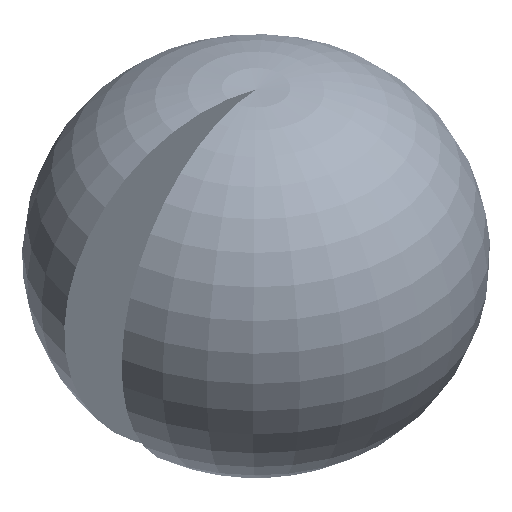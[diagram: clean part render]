
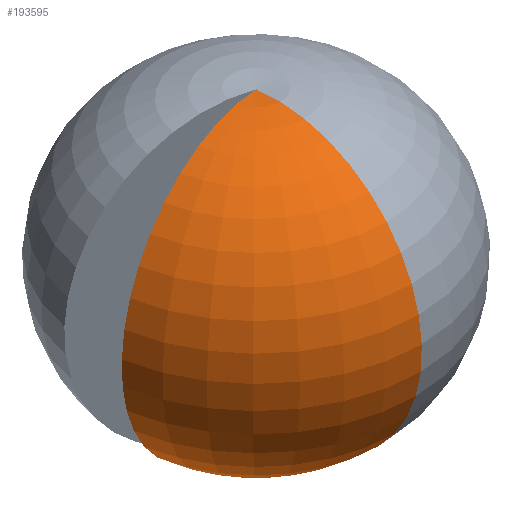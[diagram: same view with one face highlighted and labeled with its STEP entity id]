
A CAD part, isometric view. The second image highlights one B-rep face of the part: STEP entity #193595.
In plain terms, the highlighted toroidal (fillet/blend) face has major radius 279.64 mm and minor radius 2020.25 mm.
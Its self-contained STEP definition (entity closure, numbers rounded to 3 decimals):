
#8469 = AXIS2_PLACEMENT_3D ( 'NONE', #185276, #258822, #104993 ) ;
#17187 = EDGE_CURVE ( 'NONE', #87739, #170098, #20345, .T. ) ;
#20345 = CIRCLE ( 'NONE', #244084, 2020.245 ) ;
#34828 = VERTEX_POINT ( 'NONE', #53873 ) ;
#36661 = AXIS2_PLACEMENT_3D ( 'NONE', #198520, #302721, #68587 ) ;
#53873 = CARTESIAN_POINT ( 'NONE',  ( 0., -1438.405, -984.888 ) ) ;
#68587 = DIRECTION ( 'NONE',  ( 0., -1., 0. ) ) ;
#87739 = VERTEX_POINT ( 'NONE', #196451 ) ;
#90210 = ORIENTED_EDGE ( 'NONE', *, *, #152766, .T. ) ;
#101471 = EDGE_CURVE ( 'NONE', #34828, #170098, #333576, .T. ) ;
#104993 = DIRECTION ( 'NONE',  ( 0., -1., 0. ) ) ;
#106524 = TOROIDAL_SURFACE ( 'NONE', #8469, 279.64, 2020.245 ) ;
#129572 = CIRCLE ( 'NONE', #36661, 1438.405 ) ;
#132744 = ORIENTED_EDGE ( 'NONE', *, *, #17187, .F. ) ;
#141691 = CARTESIAN_POINT ( 'NONE',  ( 0., 0., 2670.798 ) ) ;
#152766 = EDGE_CURVE ( 'NONE', #87739, #34828, #129572, .T. ) ;
#170098 = VERTEX_POINT ( 'NONE', #141691 ) ;
#182363 = DIRECTION ( 'NONE',  ( 0., 0., 1. ) ) ;
#185276 = CARTESIAN_POINT ( 'NONE',  ( 0., 0., 670. ) ) ;
#191605 = AXIS2_PLACEMENT_3D ( 'NONE', #233666, #337877, #182363 ) ;
#193595 = ADVANCED_FACE ( 'NONE', ( #310077 ), #106524, .T. ) ;
#196451 = CARTESIAN_POINT ( 'NONE',  ( -1416.552, -249.776, -984.888 ) ) ;
#198520 = CARTESIAN_POINT ( 'NONE',  ( 0., 0., -984.888 ) ) ;
#212533 = CARTESIAN_POINT ( 'NONE',  ( -275.391, -48.559, 670. ) ) ;
#233341 = EDGE_LOOP ( 'NONE', ( #90210, #284893, #132744 ) ) ;
#233666 = CARTESIAN_POINT ( 'NONE',  ( 0., -279.64, 670. ) ) ;
#236526 = DIRECTION ( 'NONE',  ( -0.985, -0.174, 0. ) ) ;
#244084 = AXIS2_PLACEMENT_3D ( 'NONE', #212533, #316747, #236526 ) ;
#258822 = DIRECTION ( 'NONE',  ( 0., 0., 1. ) ) ;
#284893 = ORIENTED_EDGE ( 'NONE', *, *, #101471, .T. ) ;
#302721 = DIRECTION ( 'NONE',  ( 0., 0., 1. ) ) ;
#310077 = FACE_OUTER_BOUND ( 'NONE', #233341, .T. ) ;
#316747 = DIRECTION ( 'NONE',  ( -0.174, 0.985, 0. ) ) ;
#333576 = CIRCLE ( 'NONE', #191605, 2020.245 ) ;
#337877 = DIRECTION ( 'NONE',  ( -1., 0., 0. ) ) ;
